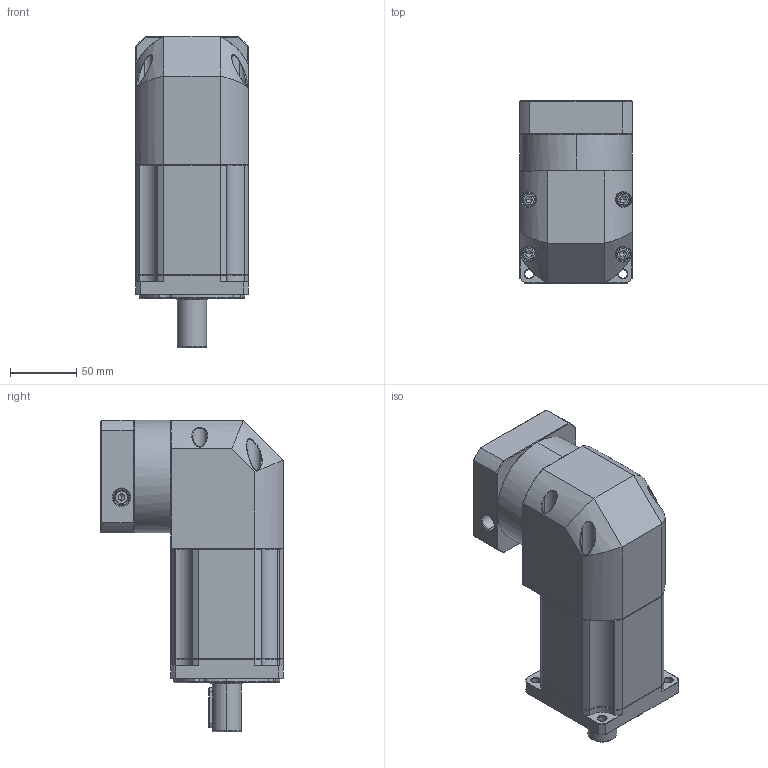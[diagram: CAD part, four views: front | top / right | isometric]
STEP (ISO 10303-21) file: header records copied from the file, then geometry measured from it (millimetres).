
FILE_DESCRIPTION (( 'STEP AP214' ), '1' );
FILE_NAME ('ZBR090-D22-L3-P2-14-73-69.6X69.6-M6.step', '2023-08-19T02:07:44', ( '' ), ( '' ), 'SwSTEP 2.0', 'SolidWorks 2016', '' );
FILE_SCHEMA (( 'AUTOMOTIVE_DESIGN' ));
Length unit declared in the file: millimetre
Products named in the file (1): ZBR090-D22-L3-P2-14-73-69.6X69.6-M6
Bounding box: 85 x 137.6 x 235 mm (x, y, z)
Volume: 1490905.6 mm3; surface area: 144697.2 mm2
Topology: 5 solids, 5 shells, 2401 faces, 6267 edges, 3958 vertices
Faces by surface type: plane 1157, cylinder 447, bspline 421, cone 350, torus 26
Entity records: 129288 total; most frequent: CARTESIAN_POINT 47591, ORIENTED_EDGE 12458, DIRECTION 9900, EDGE_CURVE 6229, VECTOR 3964, LINE 3964, VERTEX_POINT 3958, AXIS2_PLACEMENT_3D 2968
